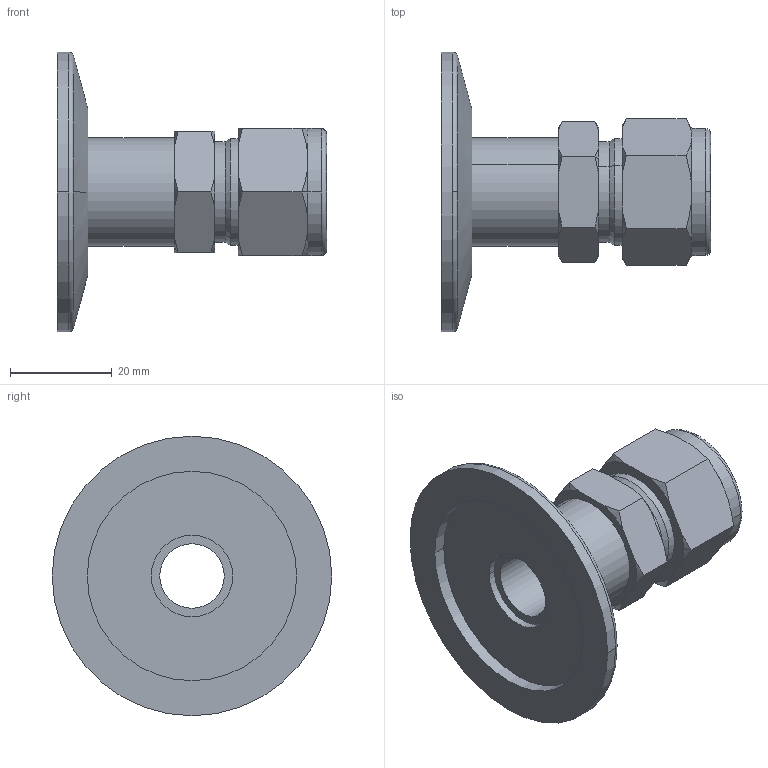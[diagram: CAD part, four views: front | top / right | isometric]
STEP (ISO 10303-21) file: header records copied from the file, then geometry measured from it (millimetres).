
FILE_DESCRIPTION((''),'2;1');
FILE_NAME('W:\211-358.stp','2003-10-31T16:03:34',('KAA'),(''),'Autodesk Inventor (R) 6.0','Autodesk Inventor (R) 6.0','');
FILE_SCHEMA(('CONFIG_CONTROL_DESIGN'));
Length unit declared in the file: millimetre
Products named in the file (1): 211-358
Bounding box: 53 x 55 x 55 mm (x, y, z)
Volume: 20320.3 mm3; surface area: 13460.9 mm2
Topology: 1 solids, 3 shells, 121 faces, 284 edges, 180 vertices
Faces by surface type: cone 54, cylinder 34, plane 29, torus 2, bspline 2
Entity records: 3631 total; most frequent: CARTESIAN_POINT 770, DIRECTION 618, ORIENTED_EDGE 568, EDGE_CURVE 284, AXIS2_PLACEMENT_3D 262, VERTEX_POINT 180, CIRCLE 142, EDGE_LOOP 138
